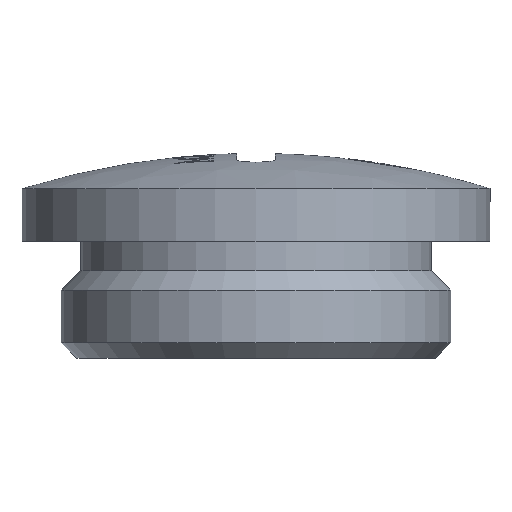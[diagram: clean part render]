
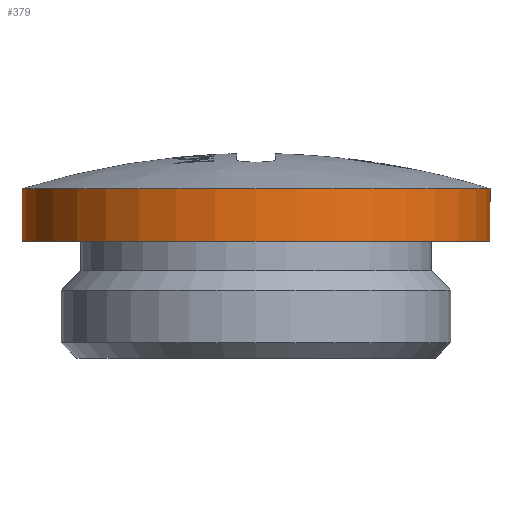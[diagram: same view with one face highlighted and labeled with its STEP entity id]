
A CAD part, left-side view. The second image highlights one B-rep face of the part: STEP entity #379.
In plain terms, the highlighted cylindrical face has radius 12 mm (diameter 24 mm), a partial arc.
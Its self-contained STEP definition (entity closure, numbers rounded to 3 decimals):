
#379 = ADVANCED_FACE ( 'NONE', ( #2151 ), #2150, .T. ) ;
#380 = EDGE_LOOP ( 'NONE', ( #381, #382, #383, #384 ) ) ;
#381 = ORIENTED_EDGE ( 'NONE', *, *, #591, .F. ) ;
#382 = ORIENTED_EDGE ( 'NONE', *, *, #4998, .T. ) ;
#383 = ORIENTED_EDGE ( 'NONE', *, *, #540, .T. ) ;
#384 = ORIENTED_EDGE ( 'NONE', *, *, #385, .F. ) ;
#385 = EDGE_CURVE ( 'NONE', #592, #538, #2145, .T. ) ;
#538 = VERTEX_POINT ( 'NONE', #2413 ) ;
#540 = EDGE_CURVE ( 'NONE', #588, #538, #2412, .T. ) ;
#588 = VERTEX_POINT ( 'NONE', #2556 ) ;
#589 = VERTEX_POINT ( 'NONE', #2555 ) ;
#591 = EDGE_CURVE ( 'NONE', #589, #592, #2554, .T. ) ;
#592 = VERTEX_POINT ( 'NONE', #2550 ) ;
#2142 = DIRECTION ( 'NONE',  ( 0., 1., 0. ) ) ;
#2143 = DIRECTION ( 'NONE',  ( 0., 0., -1. ) ) ;
#2144 = AXIS2_PLACEMENT_3D ( 'NONE', #2149, #2143, #2142 ) ;
#2145 = CIRCLE ( 'NONE', #2144, 12. ) ;
#2146 = DIRECTION ( 'NONE',  ( 0., 1., 0. ) ) ;
#2147 = DIRECTION ( 'NONE',  ( 0., 0., -1. ) ) ;
#2148 = AXIS2_PLACEMENT_3D ( 'NONE', #2156, #2147, #2146 ) ;
#2149 = CARTESIAN_POINT ( 'NONE',  ( 0., 0., 6. ) ) ;
#2150 = CYLINDRICAL_SURFACE ( 'NONE', #2148, 12. ) ;
#2151 = FACE_OUTER_BOUND ( 'NONE', #380, .T. ) ;
#2156 = CARTESIAN_POINT ( 'NONE',  ( 0., 0., 0. ) ) ;
#2409 = DIRECTION ( 'NONE',  ( 0., 0., -1. ) ) ;
#2410 = VECTOR ( 'NONE', #2409, 1000. ) ;
#2411 = CARTESIAN_POINT ( 'NONE',  ( 0., 12., 0. ) ) ;
#2412 = LINE ( 'NONE', #2411, #2410 ) ;
#2413 = CARTESIAN_POINT ( 'NONE',  ( 0., 12., 6. ) ) ;
#2550 = CARTESIAN_POINT ( 'NONE',  ( 0., -12., 6. ) ) ;
#2551 = DIRECTION ( 'NONE',  ( 0., 0., -1. ) ) ;
#2552 = VECTOR ( 'NONE', #2551, 1000. ) ;
#2553 = CARTESIAN_POINT ( 'NONE',  ( 0., -12., 0. ) ) ;
#2554 = LINE ( 'NONE', #2553, #2552 ) ;
#2555 = CARTESIAN_POINT ( 'NONE',  ( 0., -12., 8.7 ) ) ;
#2556 = CARTESIAN_POINT ( 'NONE',  ( 0., 12., 8.7 ) ) ;
#4320 = DIRECTION ( 'NONE',  ( 0., 1., 0. ) ) ;
#4321 = DIRECTION ( 'NONE',  ( 0., 0., -1. ) ) ;
#4322 = AXIS2_PLACEMENT_3D ( 'NONE', #4327, #4321, #4320 ) ;
#4323 = CIRCLE ( 'NONE', #4322, 12. ) ;
#4327 = CARTESIAN_POINT ( 'NONE',  ( 0., 0., 8.7 ) ) ;
#4998 = EDGE_CURVE ( 'NONE', #589, #588, #4323, .T. ) ;
